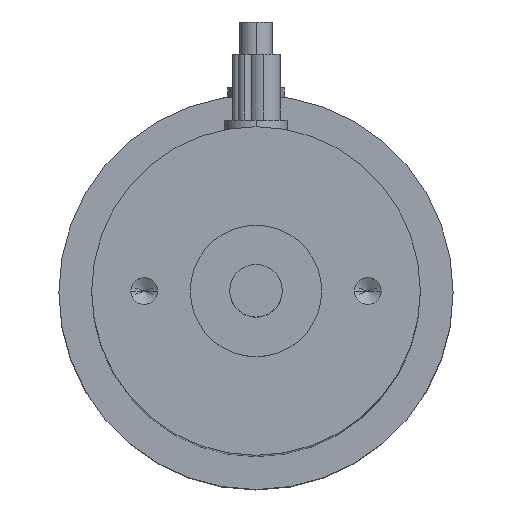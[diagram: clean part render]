
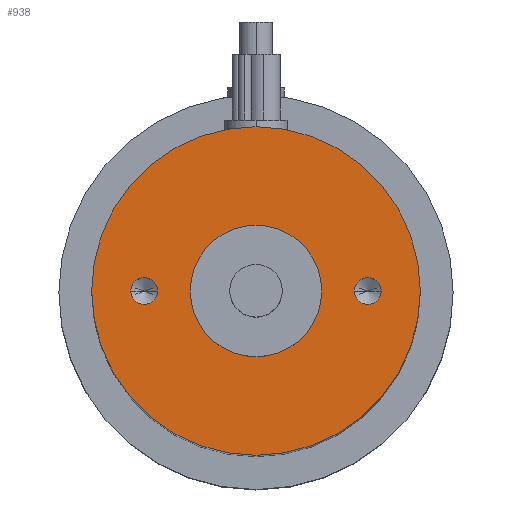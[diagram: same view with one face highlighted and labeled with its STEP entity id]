
A CAD part, top view. The second image highlights one B-rep face of the part: STEP entity #938.
In plain terms, the highlighted planar face has unit normal (0, 0, 1).
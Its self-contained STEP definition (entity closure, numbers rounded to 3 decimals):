
#8 = CARTESIAN_POINT ( 'NONE',  ( -7.475, 0., 0. ) ) ;
#27 = EDGE_CURVE ( 'NONE', #1016, #365, #377, .T. ) ;
#33 = EDGE_CURVE ( 'NONE', #805, #546, #135, .T. ) ;
#41 = VERTEX_POINT ( 'NONE', #139 ) ;
#52 = CARTESIAN_POINT ( 'NONE',  ( -8.5, 0., 0. ) ) ;
#55 = EDGE_CURVE ( 'NONE', #41, #1210, #994, .T. ) ;
#83 = FACE_BOUND ( 'NONE', #867, .T. ) ;
#92 = EDGE_CURVE ( 'NONE', #546, #805, #895, .T. ) ;
#103 = AXIS2_PLACEMENT_3D ( 'NONE', #1045, #954, #500 ) ;
#107 = VERTEX_POINT ( 'NONE', #1167 ) ;
#112 = ORIENTED_EDGE ( 'NONE', *, *, #1049, .F. ) ;
#121 = CARTESIAN_POINT ( 'NONE',  ( 8.5, 0., 0. ) ) ;
#130 = DIRECTION ( 'NONE',  ( 0., 0., 1. ) ) ;
#135 = CIRCLE ( 'NONE', #460, 1.025 ) ;
#136 = VERTEX_POINT ( 'NONE', #532 ) ;
#139 = CARTESIAN_POINT ( 'NONE',  ( 5., 0., 0. ) ) ;
#146 = EDGE_CURVE ( 'NONE', #136, #107, #815, .T. ) ;
#182 = ORIENTED_EDGE ( 'NONE', *, *, #92, .F. ) ;
#192 = CARTESIAN_POINT ( 'NONE',  ( 8.5, 0., 0. ) ) ;
#207 = EDGE_LOOP ( 'NONE', ( #857, #182 ) ) ;
#215 = CARTESIAN_POINT ( 'NONE',  ( 0., 0., 0. ) ) ;
#216 = AXIS2_PLACEMENT_3D ( 'NONE', #52, #240, #336 ) ;
#220 = ORIENTED_EDGE ( 'NONE', *, *, #747, .F. ) ;
#240 = DIRECTION ( 'NONE',  ( 0., 0., 1. ) ) ;
#277 = AXIS2_PLACEMENT_3D ( 'NONE', #983, #130, #517 ) ;
#281 = ORIENTED_EDGE ( 'NONE', *, *, #146, .T. ) ;
#294 = AXIS2_PLACEMENT_3D ( 'NONE', #920, #1171, #713 ) ;
#308 = DIRECTION ( 'NONE',  ( 0., 0., 1. ) ) ;
#336 = DIRECTION ( 'NONE',  ( 1., 0., 0. ) ) ;
#358 = CARTESIAN_POINT ( 'NONE',  ( 9.525, 0., 0. ) ) ;
#365 = VERTEX_POINT ( 'NONE', #8 ) ;
#373 = DIRECTION ( 'NONE',  ( 1., 0., 0. ) ) ;
#377 = CIRCLE ( 'NONE', #640, 1.025 ) ;
#407 = ORIENTED_EDGE ( 'NONE', *, *, #55, .F. ) ;
#454 = FACE_BOUND ( 'NONE', #1149, .T. ) ;
#460 = AXIS2_PLACEMENT_3D ( 'NONE', #192, #871, #775 ) ;
#466 = CARTESIAN_POINT ( 'NONE',  ( -8.5, 0., 0. ) ) ;
#500 = DIRECTION ( 'NONE',  ( 1., 0., 0. ) ) ;
#509 = DIRECTION ( 'NONE',  ( 0., 0., 1. ) ) ;
#512 = EDGE_CURVE ( 'NONE', #107, #136, #556, .T. ) ;
#517 = DIRECTION ( 'NONE',  ( 1., 0., 0. ) ) ;
#525 = AXIS2_PLACEMENT_3D ( 'NONE', #928, #833, #931 ) ;
#532 = CARTESIAN_POINT ( 'NONE',  ( 12.5, 0., 0. ) ) ;
#538 = EDGE_LOOP ( 'NONE', ( #281, #988 ) ) ;
#546 = VERTEX_POINT ( 'NONE', #858 ) ;
#556 = CIRCLE ( 'NONE', #294, 12.5 ) ;
#563 = FACE_BOUND ( 'NONE', #207, .T. ) ;
#613 = DIRECTION ( 'NONE',  ( 1., 0., 0. ) ) ;
#640 = AXIS2_PLACEMENT_3D ( 'NONE', #466, #845, #373 ) ;
#689 = CIRCLE ( 'NONE', #216, 1.025 ) ;
#704 = DIRECTION ( 'NONE',  ( 1., 0., 0. ) ) ;
#713 = DIRECTION ( 'NONE',  ( 1., 0., 0. ) ) ;
#742 = ORIENTED_EDGE ( 'NONE', *, *, #27, .F. ) ;
#747 = EDGE_CURVE ( 'NONE', #365, #1016, #689, .T. ) ;
#775 = DIRECTION ( 'NONE',  ( 1., 0., 0. ) ) ;
#805 = VERTEX_POINT ( 'NONE', #358 ) ;
#815 = CIRCLE ( 'NONE', #277, 12.5 ) ;
#833 = DIRECTION ( 'NONE',  ( 0., 0., -1. ) ) ;
#845 = DIRECTION ( 'NONE',  ( 0., 0., 1. ) ) ;
#857 = ORIENTED_EDGE ( 'NONE', *, *, #33, .F. ) ;
#858 = CARTESIAN_POINT ( 'NONE',  ( 7.475, 0., 0. ) ) ;
#864 = CARTESIAN_POINT ( 'NONE',  ( -9.525, 0., 0. ) ) ;
#867 = EDGE_LOOP ( 'NONE', ( #407, #112 ) ) ;
#871 = DIRECTION ( 'NONE',  ( 0., 0., 1. ) ) ;
#881 = AXIS2_PLACEMENT_3D ( 'NONE', #215, #308, #704 ) ;
#895 = CIRCLE ( 'NONE', #1032, 1.025 ) ;
#920 = CARTESIAN_POINT ( 'NONE',  ( 0., 0., 0. ) ) ;
#921 = PLANE ( 'NONE',  #525 ) ;
#928 = CARTESIAN_POINT ( 'NONE',  ( 0., 5., 0. ) ) ;
#931 = DIRECTION ( 'NONE',  ( -1., 0., 0. ) ) ;
#938 = ADVANCED_FACE ( 'NONE', ( #454, #563, #83, #1207 ), #921, .F. ) ;
#954 = DIRECTION ( 'NONE',  ( 0., 0., 1. ) ) ;
#983 = CARTESIAN_POINT ( 'NONE',  ( 0., 0., 0. ) ) ;
#988 = ORIENTED_EDGE ( 'NONE', *, *, #512, .T. ) ;
#994 = CIRCLE ( 'NONE', #881, 5. ) ;
#999 = CIRCLE ( 'NONE', #103, 5. ) ;
#1016 = VERTEX_POINT ( 'NONE', #864 ) ;
#1032 = AXIS2_PLACEMENT_3D ( 'NONE', #121, #509, #613 ) ;
#1045 = CARTESIAN_POINT ( 'NONE',  ( 0., 0., 0. ) ) ;
#1049 = EDGE_CURVE ( 'NONE', #1210, #41, #999, .T. ) ;
#1149 = EDGE_LOOP ( 'NONE', ( #220, #742 ) ) ;
#1167 = CARTESIAN_POINT ( 'NONE',  ( -12.5, 0., 0. ) ) ;
#1171 = DIRECTION ( 'NONE',  ( 0., 0., 1. ) ) ;
#1179 = CARTESIAN_POINT ( 'NONE',  ( -5., 0., 0. ) ) ;
#1207 = FACE_OUTER_BOUND ( 'NONE', #538, .T. ) ;
#1210 = VERTEX_POINT ( 'NONE', #1179 ) ;
